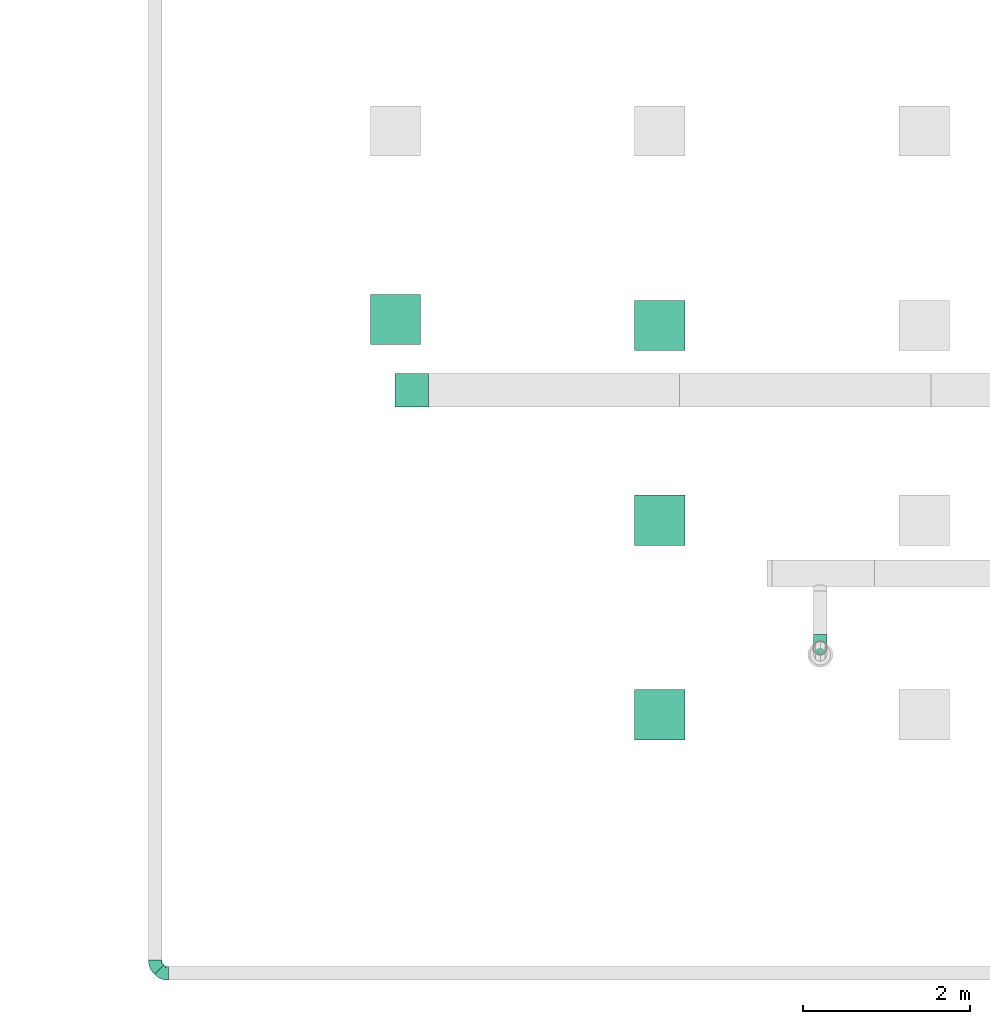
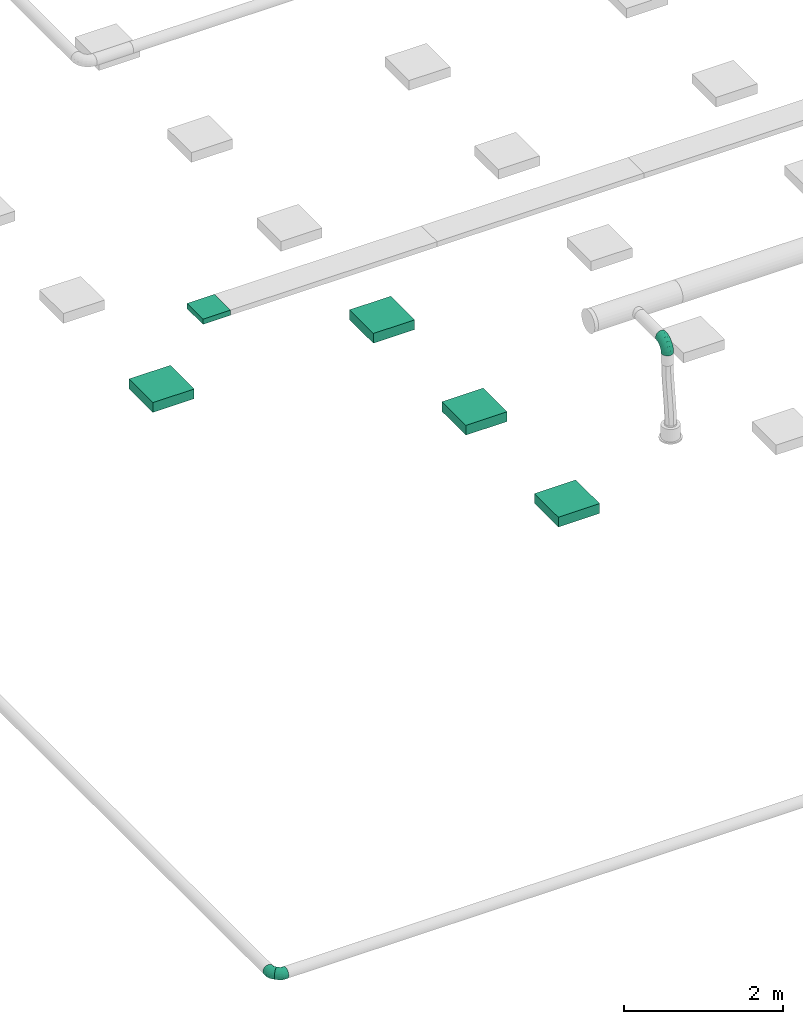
# One storey, part 15 of 374: 5 distribution elements, 3 flow fittings.
"""IFC2X3 building model written with IfcOpenShell, lengths in metres."""

from ifc_helpers import new_model, si_unit, direction, frame, frame_2d, origin, place, context, subcontext, project, spatial, rectangle, extrude, open_shell, surface_model, source, transform, mapped, element, save


model = new_model("IFC2X3")

# Units and contexts
model_context = context("Model", 3, precision=1e-05, world=origin(), true_north=direction((-0.4480736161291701, 0.8939966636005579)))
body_context = subcontext(model_context, "Body", "Model", "MODEL_VIEW")
ifc_project = project(units=[si_unit("LENGTHUNIT", "METRE"), si_unit("AREAUNIT", "SQUARE_METRE"), si_unit("VOLUMEUNIT", "CUBIC_METRE"), si_unit("PLANEANGLEUNIT", "RADIAN"), si_unit("THERMODYNAMICTEMPERATUREUNIT", "KELVIN"), si_unit("MASSUNIT", "GRAM", prefix="KILO"), si_unit("TIMEUNIT", "SECOND")], contexts=[model_context])

# Site, building, storey
site_placement = place(None, origin())
site = spatial("IfcSite", under=ifc_project, at=site_placement, Name="Site 1", CompositionType="ELEMENT")
building_placement = place(site_placement, origin())
building = spatial("IfcBuilding", under=site, at=building_placement, Name="Undefined", CompositionType="ELEMENT")
storey_placement = place(building_placement, origin())
storey = spatial("IfcBuildingStorey", under=building, at=storey_placement, Name="Rez de chauss\x8ee", CompositionType="ELEMENT", Elevation=0.0)

# Flow fittings
shared_shape_1 = source(origin(), body_context, "Body", "SurfaceModel", [
    surface_model("IfcFaceBasedSurfaceModel", [(0.06265257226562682, -8.8817842e-16, 0.0), (0.062296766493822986, 0.02088115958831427, -7.105427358e-15), (0.0003558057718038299, 0.020881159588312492, 7.105427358e-15), (0.0, 0.0, 0.0), (-0.059474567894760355, 0.022956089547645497, -0.015896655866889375), (-0.06051773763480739, 0.002098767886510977, -0.01607928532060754), (-0.11311701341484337, 0.02696454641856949, -0.04660663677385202), (-0.11477645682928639, 0.006153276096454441, -0.04714207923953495), (-0.15691588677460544, 0.0326333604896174, -0.09003710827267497), (-0.15907851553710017, 0.01188721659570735, -0.09107150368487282), (-0.18788636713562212, 0.03957621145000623, -0.14322835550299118), (-0.1904048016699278, 0.01890983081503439, -0.14487384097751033), (-0.2039178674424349, 0.04731995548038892, -0.20255548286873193), (-0.20662048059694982, 0.026742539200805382, -0.20488255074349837), (0.061253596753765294, 0.04103889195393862, -0.0053597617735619), (0.0013989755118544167, 0.04103889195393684, -0.005359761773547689), (-0.05641614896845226, 0.04304393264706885, -0.02072097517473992), (-0.10825177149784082, 0.04691737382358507, -0.050396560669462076), (-0.15057538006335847, 0.05239524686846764, -0.09236417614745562), (-0.18050269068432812, 0.05910424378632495, -0.14376379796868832), (-0.19599420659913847, 0.06658715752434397, -0.20109262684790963), (0.05959415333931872, 0.05909948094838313, -0.01571402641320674), (0.003058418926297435, 0.05909948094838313, -0.01571402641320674), (-0.05155090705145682, 0.06099334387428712, -0.030223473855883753), (-0.10051228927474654, 0.06465200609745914, -0.058253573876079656), (-0.1404890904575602, 0.0698261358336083, -0.09789412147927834), (-0.16875695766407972, 0.0761631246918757, -0.14644367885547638), (-0.18338948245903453, 0.08323111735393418, -0.2005936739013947), (0.057431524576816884, 0.07383212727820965, -0.030357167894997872), (0.005221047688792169, 0.07383212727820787, -0.03035716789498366), (-0.0452104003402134, 0.07558110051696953, -0.04375657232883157), (-0.09042599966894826, 0.07895985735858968, -0.06964223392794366), (-0.12734438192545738, 0.08373814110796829, -0.10625008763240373), (-0.15344962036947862, 0.08959031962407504, -0.15108536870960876), (-0.16696268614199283, 0.0961175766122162, -0.20109262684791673), (0.054913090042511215, 0.0842328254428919, -0.048291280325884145), (0.007739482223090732, 0.08423282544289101, -0.04829128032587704), (-0.037826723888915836, 0.08581307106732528, -0.06039801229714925), (-0.07868026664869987, 0.08886587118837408, -0.08378642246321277), (-0.11203704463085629, 0.09318318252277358, -0.11686262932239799), (-0.13562384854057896, 0.09847078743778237, -0.1573725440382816), (-0.14783327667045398, 0.10436834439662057, -0.20255548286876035), (0.05221047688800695, 0.0895927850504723, -0.06829418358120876), (0.010442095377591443, 0.08959278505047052, -0.06829418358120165), (-0.029903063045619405, 0.09099196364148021, -0.07901370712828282), (-0.06607554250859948, 0.09369496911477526, -0.0997222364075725), (-0.0956102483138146, 0.0975175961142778, -0.12900851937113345), (-0.11649443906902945, 0.10219933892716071, -0.16487674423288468), (-0.12730489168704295, 0.1074211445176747, -0.2048825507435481), (0.04950786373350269, 0.08954673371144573, -0.08900271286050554), (0.013144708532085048, 0.08954673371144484, -0.08900271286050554), (-0.02197940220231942, 0.09076484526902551, -0.09833502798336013), (-0.05347081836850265, 0.09311805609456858, -0.11636367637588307), (-0.0791834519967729, 0.09644599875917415, -0.14186003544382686), (-0.09736502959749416, 0.10052187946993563, -0.17308657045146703), (-0.10677650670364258, 0.1050679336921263, -0.20791524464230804), (0.04698942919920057, 0.08409780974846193, -0.10900561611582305), (0.015663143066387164, 0.08409780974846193, -0.10900561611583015), (-0.014595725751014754, 0.08514719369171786, -0.11704525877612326), (-0.0417250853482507, 0.0871744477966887, -0.13257665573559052), (-0.06387611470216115, 0.09004141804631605, -0.15454136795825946), (-0.07953925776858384, 0.09355272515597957, -0.1814425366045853), (-0.08764709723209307, 0.09746907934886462, -0.21144689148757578), (0.04482680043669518, 0.0736173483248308, -0.12693972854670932), (0.017825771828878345, 0.0736173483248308, -0.12693972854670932), (-0.008255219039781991, 0.07452184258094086, -0.13386932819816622), (-0.03163879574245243, 0.0762691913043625, -0.14725628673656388), (-0.050731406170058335, 0.07874031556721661, -0.1661883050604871), (-0.06423192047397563, 0.08176681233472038, -0.18937519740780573), (-0.07122030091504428, 0.08514243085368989, -0.21523681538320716), (0.04316735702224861, 0.058819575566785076, -0.14158287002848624), (0.019485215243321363, 0.058819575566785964, -0.14158287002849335), (-0.0033899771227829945, 0.05961289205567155, -0.14766070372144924), (-0.02389931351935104, 0.06114546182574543, -0.15940217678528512), (-0.04064511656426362, 0.06331284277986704, -0.17600712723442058), (-0.052486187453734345, 0.06596733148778, -0.19634395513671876), (-0.05861557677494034, 0.06892802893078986, -0.2190267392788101), (0.04212418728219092, 0.040712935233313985, -0.15193713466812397), (0.020528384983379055, 0.040712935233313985, -0.15193713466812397), (-0.0003315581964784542, 0.041436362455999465, -0.15747952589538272), (-0.019034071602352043, 0.04283391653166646, -0.16818660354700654), (-0.03430460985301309, 0.04481035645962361, -0.1833286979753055), (-0.04510251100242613, 0.047230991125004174, -0.20187390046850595), (-0.05069191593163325, 0.04993085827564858, -0.22255838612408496), (0.04176838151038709, 0.02053136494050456, -0.15729689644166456), (0.020884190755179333, 0.02053136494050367, -0.15729689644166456), (0.0007116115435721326, 0.021230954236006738, -0.16265665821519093), (-0.017374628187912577, 0.022582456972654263, -0.17301092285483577), (-0.03214198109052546, 0.024493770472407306, -0.1876540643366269), (-0.042584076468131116, 0.026834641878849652, -0.20558817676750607), (-0.04798930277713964, 0.02944554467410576, -0.22559108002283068), (0.04212418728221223, -0.000349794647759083, -0.15729689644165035), (0.020528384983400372, -0.000349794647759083, -0.15729689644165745), (-0.0003315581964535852, 0.00037363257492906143, -0.1628392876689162), (-0.019034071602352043, 0.0017711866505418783, -0.17354636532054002), (-0.03430460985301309, 0.0037476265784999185, -0.18868845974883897), (-0.04510251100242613, 0.00616826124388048, -0.20723366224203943), (-0.05069191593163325, 0.008868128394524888, -0.22791814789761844), (0.04316735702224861, -0.020507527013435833, -0.15193713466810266), (0.019485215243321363, -0.020507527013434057, -0.15193713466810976), (-0.0033899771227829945, -0.019714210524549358, -0.15801496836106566), (-0.02389931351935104, -0.01818164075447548, -0.16975644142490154), (-0.04064511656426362, -0.01601425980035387, -0.186361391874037), (-0.052486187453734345, -0.013359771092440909, -0.20669821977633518), (-0.05861557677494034, -0.010399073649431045, -0.22938100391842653), (0.04482680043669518, -0.03856811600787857, -0.1415828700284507), (0.017825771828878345, -0.03856811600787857, -0.1415828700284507), (-0.008255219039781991, -0.03766362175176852, -0.1485124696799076), (-0.03163879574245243, -0.03591627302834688, -0.16189942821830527), (-0.050731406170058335, -0.03344514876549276, -0.1808314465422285), (-0.06423192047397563, -0.030418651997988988, -0.20401833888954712), (-0.07122030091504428, -0.027043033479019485, -0.22987995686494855), (0.04698942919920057, -0.05330076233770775, -0.12693972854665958), (0.015663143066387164, -0.05330076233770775, -0.12693972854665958), (-0.014595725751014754, -0.05225137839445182, -0.1349793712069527), (-0.0417250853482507, -0.05022412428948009, -0.15051076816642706), (-0.06387611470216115, -0.047357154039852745, -0.172475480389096), (-0.07953925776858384, -0.043845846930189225, -0.19937664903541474), (-0.08764709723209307, -0.03992949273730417, -0.2293810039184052), (0.04950786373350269, -0.06370146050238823, -0.10900561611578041), (0.013144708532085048, -0.06370146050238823, -0.10900561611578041), (-0.02197940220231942, -0.06248334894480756, -0.11833793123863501), (-0.05347081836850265, -0.06013013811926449, -0.13636657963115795), (-0.0791834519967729, -0.05680219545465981, -0.16186293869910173), (-0.09736502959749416, -0.05272631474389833, -0.1930894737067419), (-0.10677650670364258, -0.04818026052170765, -0.2279181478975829), (0.05221047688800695, -0.06906142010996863, -0.08900271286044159), (0.010442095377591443, -0.06906142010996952, -0.08900271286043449), (-0.029903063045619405, -0.06766224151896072, -0.09972223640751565), (-0.06607554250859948, -0.06495923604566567, -0.12043076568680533), (-0.0956102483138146, -0.06113660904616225, -0.14971704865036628), (-0.11649443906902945, -0.05645486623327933, -0.1855852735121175), (-0.12730489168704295, -0.05123306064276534, -0.22559108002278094), (0.054913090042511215, -0.06901536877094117, -0.06829418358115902), (0.007739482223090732, -0.06901536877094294, -0.06829418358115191), (-0.037826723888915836, -0.06743512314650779, -0.08040091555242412), (-0.07868026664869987, -0.06438232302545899, -0.10378932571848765), (-0.11203704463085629, -0.06006501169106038, -0.13686553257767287), (-0.13562384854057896, -0.0547774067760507, -0.17737544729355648), (-0.14783327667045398, -0.04887984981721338, -0.22255838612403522), (0.057431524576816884, -0.06356644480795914, -0.0482912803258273), (0.005221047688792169, -0.06356644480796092, -0.04829128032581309), (-0.0452104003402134, -0.061817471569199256, -0.0616906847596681), (-0.09042599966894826, -0.05843871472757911, -0.0875763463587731), (-0.12734438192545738, -0.05366043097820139, -0.12418420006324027), (-0.15344962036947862, -0.04780825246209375, -0.1690194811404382), (-0.16696268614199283, -0.041280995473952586, -0.21902673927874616), (0.05959415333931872, -0.05308598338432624, -0.030357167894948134), (0.003058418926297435, -0.05308598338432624, -0.030357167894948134), (-0.05155090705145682, -0.05119212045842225, -0.04486661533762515), (-0.10051228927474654, -0.04753345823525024, -0.07289671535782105), (-0.1404890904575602, -0.04235932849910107, -0.11253726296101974), (-0.16875695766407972, -0.03602233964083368, -0.16108682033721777), (-0.18338948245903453, -0.02895434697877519, -0.2152368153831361), (0.061253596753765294, -0.03828821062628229, -0.015714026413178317), (0.0013989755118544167, -0.03828821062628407, -0.015714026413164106), (-0.05641614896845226, -0.03628316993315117, -0.031075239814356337), (-0.10825177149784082, -0.03240972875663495, -0.06075082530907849), (-0.15057538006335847, -0.026931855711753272, -0.10271844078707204), (-0.18050269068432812, -0.02022285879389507, -0.15411806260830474), (-0.19599420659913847, -0.012739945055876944, -0.21144689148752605), (0.062296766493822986, -0.020181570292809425, -0.005359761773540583), (0.0003558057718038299, -0.020181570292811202, -0.0053597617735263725), (-0.059474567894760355, -0.018106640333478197, -0.021256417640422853), (-0.11311701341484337, -0.014098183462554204, -0.051966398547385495), (-0.15691588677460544, -0.00842936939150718, -0.09539687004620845), (-0.18788636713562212, -0.0014865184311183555, -0.14858811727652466), (-0.2039178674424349, 0.006257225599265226, -0.2079152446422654)], [open_shell([[[0, 1, 2, 3]], [[3, 2, 4, 5]], [[5, 4, 6, 7]], [[7, 6, 8, 9]], [[9, 8, 10, 11]], [[11, 10, 12, 13]], [[1, 14, 15, 2]], [[2, 15, 16, 4]], [[4, 16, 17, 6]], [[6, 17, 18, 8]], [[8, 18, 19, 10]], [[10, 19, 20, 12]], [[14, 21, 22, 15]], [[15, 22, 23, 16]], [[16, 23, 24, 17]], [[17, 24, 25, 18]], [[18, 25, 26, 19]], [[19, 26, 27, 20]], [[21, 28, 29, 22]], [[22, 29, 30, 23]], [[23, 30, 31, 24]], [[24, 31, 32, 25]], [[25, 32, 33, 26]], [[26, 33, 34, 27]], [[28, 35, 36, 29]], [[29, 36, 37, 30]], [[30, 37, 38, 31]], [[31, 38, 39, 32]], [[32, 39, 40, 33]], [[33, 40, 41, 34]], [[35, 42, 43, 36]], [[36, 43, 44, 37]], [[37, 44, 45, 38]], [[38, 45, 46, 39]], [[39, 46, 47, 40]], [[40, 47, 48, 41]], [[42, 49, 50, 43]], [[43, 50, 51, 44]], [[44, 51, 52, 45]], [[45, 52, 53, 46]], [[46, 53, 54, 47]], [[47, 54, 55, 48]], [[49, 56, 57, 50]], [[50, 57, 58, 51]], [[51, 58, 59, 52]], [[52, 59, 60, 53]], [[53, 60, 61, 54]], [[54, 61, 62, 55]], [[56, 63, 64, 57]], [[57, 64, 65, 58]], [[58, 65, 66, 59]], [[59, 66, 67, 60]], [[60, 67, 68, 61]], [[61, 68, 69, 62]], [[63, 70, 71, 64]], [[64, 71, 72, 65]], [[65, 72, 73, 66]], [[66, 73, 74, 67]], [[67, 74, 75, 68]], [[68, 75, 76, 69]], [[70, 77, 78, 71]], [[71, 78, 79, 72]], [[72, 79, 80, 73]], [[73, 80, 81, 74]], [[74, 81, 82, 75]], [[75, 82, 83, 76]], [[77, 84, 85, 78]], [[78, 85, 86, 79]], [[79, 86, 87, 80]], [[80, 87, 88, 81]], [[81, 88, 89, 82]], [[82, 89, 90, 83]], [[84, 91, 92, 85]], [[85, 92, 93, 86]], [[86, 93, 94, 87]], [[87, 94, 95, 88]], [[88, 95, 96, 89]], [[89, 96, 97, 90]], [[91, 98, 99, 92]], [[92, 99, 100, 93]], [[93, 100, 101, 94]], [[94, 101, 102, 95]], [[95, 102, 103, 96]], [[96, 103, 104, 97]], [[98, 105, 106, 99]], [[99, 106, 107, 100]], [[100, 107, 108, 101]], [[101, 108, 109, 102]], [[102, 109, 110, 103]], [[103, 110, 111, 104]], [[105, 112, 113, 106]], [[106, 113, 114, 107]], [[107, 114, 115, 108]], [[108, 115, 116, 109]], [[109, 116, 117, 110]], [[110, 117, 118, 111]], [[112, 119, 120, 113]], [[113, 120, 121, 114]], [[114, 121, 122, 115]], [[115, 122, 123, 116]], [[116, 123, 124, 117]], [[117, 124, 125, 118]], [[119, 126, 127, 120]], [[120, 127, 128, 121]], [[121, 128, 129, 122]], [[122, 129, 130, 123]], [[123, 130, 131, 124]], [[124, 131, 132, 125]], [[126, 133, 134, 127]], [[127, 134, 135, 128]], [[128, 135, 136, 129]], [[129, 136, 137, 130]], [[130, 137, 138, 131]], [[131, 138, 139, 132]], [[133, 140, 141, 134]], [[134, 141, 142, 135]], [[135, 142, 143, 136]], [[136, 143, 144, 137]], [[137, 144, 145, 138]], [[138, 145, 146, 139]], [[140, 147, 148, 141]], [[141, 148, 149, 142]], [[142, 149, 150, 143]], [[143, 150, 151, 144]], [[144, 151, 152, 145]], [[145, 152, 153, 146]], [[147, 154, 155, 148]], [[148, 155, 156, 149]], [[149, 156, 157, 150]], [[150, 157, 158, 151]], [[151, 158, 159, 152]], [[152, 159, 160, 153]], [[154, 161, 162, 155]], [[155, 162, 163, 156]], [[156, 163, 164, 157]], [[157, 164, 165, 158]], [[158, 165, 166, 159]], [[159, 166, 167, 160]], [[161, 0, 3, 162]], [[162, 3, 5, 163]], [[163, 5, 7, 164]], [[164, 7, 9, 165]], [[165, 9, 11, 166]], [[166, 11, 13, 167]]])]),
])
flow_fitting_1_placement = place(storey_placement, origin())
element("IfcFlowFitting", 1, at=flow_fitting_1_placement, inside=storey, Name="Coude", ObjectType="Coude", context=body_context, shape_type="MappedRepresentation", body=[
    mapped(shared_shape_1, transform((6.290000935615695, 1.8881775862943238, 3.702116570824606), x_axis=(9.56658874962e-13, -0.13052619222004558, -0.9914448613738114), y_axis=(0.9915887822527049, 0.12832103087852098, -0.01689378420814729), z_axis=(0.12942830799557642, -0.983105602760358, 0.1294283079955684))),
])
shared_shape_2 = source(origin(), body_context, "Body", "SurfaceModel", [
    surface_model("IfcFaceBasedSurfaceModel", [(0.0, 0.020884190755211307, 0.0), (0.0, 0.0, 0.0), (0.03280000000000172, -3.552713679e-15, -4.4408921e-16), (0.03280000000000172, 0.0208841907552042, -8.8817842e-16), (0.0, -0.020172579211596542, -0.005405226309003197), (0.03280000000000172, -0.020172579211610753, -0.005405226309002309), (0.0, -0.03825881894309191, -0.015847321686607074), (0.03280000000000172, -0.038258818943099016, -0.015847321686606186), (0.0, -0.05302617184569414, -0.0306146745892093), (0.03280000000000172, -0.05302617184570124, -0.03061467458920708), (0.0, -0.06346826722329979, -0.04870091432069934), (0.03280000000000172, -0.06346826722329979, -0.04870091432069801), (0.0, -0.06887349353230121, -0.06887349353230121), (0.03280000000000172, -0.06887349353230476, -0.06887349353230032), (0.0, -0.06887349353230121, -0.08975768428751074), (0.03280000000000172, -0.06887349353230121, -0.08975768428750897), (0.0, -0.06346826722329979, -0.10993026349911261), (0.03280000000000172, -0.0634682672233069, -0.10993026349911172), (0.0, -0.05302617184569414, -0.12801650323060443), (0.03280000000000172, -0.05302617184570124, -0.12801650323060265), (0.0, -0.038258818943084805, -0.14278385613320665), (0.03280000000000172, -0.038258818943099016, -0.142783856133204), (0.0, -0.020172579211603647, -0.15322595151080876), (0.03280000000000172, -0.0201725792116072, -0.15322595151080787), (0.0, 7.105427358e-15, -0.15863117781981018), (0.03280000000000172, -7.105427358e-15, -0.15863117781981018), (0.0, 0.020884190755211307, -0.15863117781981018), (0.03280000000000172, 0.0208841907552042, -0.15863117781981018), (0.0, 0.04105676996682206, -0.15322595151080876), (0.03280000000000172, 0.04105676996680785, -0.15322595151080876), (0.0, 0.05914300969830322, -0.1427838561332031), (0.03280000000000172, 0.05914300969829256, -0.142783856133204), (0.0, 0.07391036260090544, -0.12801650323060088), (0.03280000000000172, 0.07391036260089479, -0.12801650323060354), (0.0, 0.0843524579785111, -0.10993026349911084), (0.03280000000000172, 0.08435245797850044, -0.1099302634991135), (0.0, 0.08975768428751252, -0.08975768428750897), (0.03280000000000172, 0.08975768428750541, -0.08975768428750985), (0.0, 0.08975768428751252, -0.06887349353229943), (0.03280000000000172, 0.08975768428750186, -0.0688734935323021), (0.0, 0.0843524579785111, -0.048700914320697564), (0.03280000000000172, 0.08435245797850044, -0.048700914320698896), (0.0, 0.07391036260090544, -0.030614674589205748), (0.03280000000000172, 0.07391036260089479, -0.03061467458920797), (0.0, 0.05914300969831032, -0.015847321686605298), (0.03280000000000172, 0.05914300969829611, -0.015847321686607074), (0.0, 0.04105676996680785, -0.005405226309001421), (0.03280000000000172, 0.04105676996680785, -0.005405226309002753), (0.07350552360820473, -0.06356035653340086, -0.09045717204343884), (0.07421104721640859, -0.06346826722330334, -0.0695851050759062), (0.11143703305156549, -0.04798302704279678, -0.09250796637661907), (0.11280000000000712, -0.04762094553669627, -0.07167144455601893), (0.14400955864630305, -0.023203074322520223, -0.09577030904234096), (0.14593708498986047, -0.02241149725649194, -0.07499033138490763), (0.07143703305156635, -0.058425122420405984, -0.11059420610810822), (0.1074410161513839, -0.043639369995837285, -0.1125407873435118), (0.13835833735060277, -0.020118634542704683, -0.11563735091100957), (0.06814653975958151, -0.04841252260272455, -0.12862390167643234), (0.10108427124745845, -0.034885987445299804, -0.13040470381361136), (0.12936854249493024, -0.013368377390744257, -0.13323755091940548), (0.06385828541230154, -0.03420489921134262, -0.14331756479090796), (0.09279999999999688, -0.02231940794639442, -0.14488231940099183), (0.11765281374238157, -0.0034123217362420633, -0.14737148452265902), (0.05886450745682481, -0.01677047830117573, -0.15367384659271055), (0.08315276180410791, -0.0067960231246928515, -0.15498700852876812), (0.1040095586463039, 0.009071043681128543, -0.15707594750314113), (0.0535055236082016, 0.002702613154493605, -0.15898698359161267), (0.07280000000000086, 0.010626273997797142, -0.16003015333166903), (0.08936854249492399, 0.023230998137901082, -0.16168959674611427), (0.04814653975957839, 0.02288731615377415, -0.15889489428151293), (0.06244723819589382, 0.028760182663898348, -0.15966807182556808), (0.07472752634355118, 0.03810256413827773, -0.16089801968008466), (0.043152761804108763, 0.042408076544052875, -0.1534038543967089), (0.05280000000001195, 0.04636990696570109, -0.15392543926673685), (0.061084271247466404, 0.05267226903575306, -0.15475516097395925), (0.038864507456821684, 0.05993458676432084, -0.1428880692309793), (0.04451572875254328, 0.062255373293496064, -0.143193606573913), (0.04936854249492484, 0.06594721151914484, -0.14367964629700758), (0.035574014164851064, 0.07427244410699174, -0.12806417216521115), (0.03815898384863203, 0.07533401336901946, -0.12820393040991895), (0.04037874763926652, 0.07702272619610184, -0.1284262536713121), (0.03350552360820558, 0.08444454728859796, -0.10994238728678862), (0.03416296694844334, 0.08471453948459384, -0.10997793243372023), (0.03472752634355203, 0.08514403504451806, -0.11003447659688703), (0.03350552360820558, 0.08984977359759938, -0.06888561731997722), (0.03416296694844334, 0.09011976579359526, -0.06892116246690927), (0.03472752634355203, 0.09054926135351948, -0.06897770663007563), (0.035574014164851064, 0.0847145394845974, -0.04874858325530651), (0.03815898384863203, 0.08577610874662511, -0.04888834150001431), (0.04037874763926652, 0.0874648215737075, -0.04911066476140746), (0.038864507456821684, 0.07470193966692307, -0.030718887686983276), (0.04451572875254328, 0.07702272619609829, -0.031024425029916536), (0.04936854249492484, 0.08071456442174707, -0.03151046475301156), (0.043152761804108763, 0.06049431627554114, -0.016025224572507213), (0.05280000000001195, 0.06445614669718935, -0.01654680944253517), (0.061084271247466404, 0.07075850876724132, -0.017376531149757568), (0.04814653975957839, 0.0430598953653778, -0.0056689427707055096), (0.06244723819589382, 0.048932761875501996, -0.006442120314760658), (0.07472752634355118, 0.058275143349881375, -0.007672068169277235), (0.0535055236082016, 0.023586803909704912, -0.0003558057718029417), (0.07280000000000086, 0.03151046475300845, -0.0013989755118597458), (0.08936854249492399, 0.04411518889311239, -0.0030584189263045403), (0.05886450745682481, 0.0034021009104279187, -0.0004478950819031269), (0.08315276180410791, 0.013376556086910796, -0.0017610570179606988), (0.1040095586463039, 0.02924362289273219, -0.00384999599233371), (0.06385828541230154, -0.016118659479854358, -0.0059389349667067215), (0.09279999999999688, -0.004233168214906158, -0.007503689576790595), (0.11765281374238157, 0.0146739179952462, -0.009992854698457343), (0.06814653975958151, -0.033645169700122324, -0.016454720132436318), (0.10108427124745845, -0.020118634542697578, -0.01823552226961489), (0.12936854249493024, 0.0013989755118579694, -0.021068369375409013), (0.07143703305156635, -0.04798302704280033, -0.03127861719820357), (0.1074410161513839, -0.03319727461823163, -0.03322519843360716), (0.13835833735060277, -0.00967653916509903, -0.03632176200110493), (0.07350552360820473, -0.05815513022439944, -0.04940040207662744), (0.11143703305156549, -0.04257780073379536, -0.051451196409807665), (0.14400955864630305, -0.017797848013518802, -0.05471353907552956), (0.16720266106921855, -0.00020839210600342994, -0.09879761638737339), (0.16913018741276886, 0.0005831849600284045, -0.07801763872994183), (0.16155143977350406, 0.0028760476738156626, -0.11866465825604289), (0.15256164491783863, 0.009626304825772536, -0.1362648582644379), (0.14084591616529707, 0.019582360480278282, -0.15039879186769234), (0.1272026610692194, 0.03206572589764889, -0.16010325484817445), (0.11256164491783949, 0.046225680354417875, -0.16471690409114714), (0.09792062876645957, 0.06109724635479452, -0.16392532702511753), (0.0842773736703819, 0.07566695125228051, -0.15778246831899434), (0.07256164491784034, 0.08894189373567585, -0.14670695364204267), (0.06357185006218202, 0.10001740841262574, -0.1314535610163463), (0.057920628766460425, 0.10813871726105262, -0.11306178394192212), (0.05599310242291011, 0.1127523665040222, -0.09278499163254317), (0.057920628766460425, 0.11354394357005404, -0.07200501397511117), (0.06357185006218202, 0.1104595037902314, -0.052137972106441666), (0.07256164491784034, 0.10370924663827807, -0.03453777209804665), (0.0842773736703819, 0.09375319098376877, -0.02040383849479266), (0.09792062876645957, 0.08126982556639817, -0.010699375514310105), (0.11256164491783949, 0.06710987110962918, -0.006085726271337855), (0.1272026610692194, 0.052238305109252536, -0.0068773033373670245), (0.14084591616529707, 0.037668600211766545, -0.013020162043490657), (0.15256164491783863, 0.024393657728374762, -0.024095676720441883), (0.16155143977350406, 0.013318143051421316, -0.039349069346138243), (0.16720266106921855, 0.005196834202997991, -0.05774084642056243)], [open_shell([[[0, 1, 2, 3]], [[1, 4, 5, 2]], [[4, 6, 7, 5]], [[6, 8, 9, 7]], [[8, 10, 11, 9]], [[10, 12, 13, 11]], [[12, 14, 15, 13]], [[14, 16, 17, 15]], [[16, 18, 19, 17]], [[18, 20, 21, 19]], [[20, 22, 23, 21]], [[22, 24, 25, 23]], [[24, 26, 27, 25]], [[26, 28, 29, 27]], [[28, 30, 31, 29]], [[30, 32, 33, 31]], [[32, 34, 35, 33]], [[34, 36, 37, 35]], [[36, 38, 39, 37]], [[38, 40, 41, 39]], [[40, 42, 43, 41]], [[42, 44, 45, 43]], [[44, 46, 47, 45]], [[46, 0, 3, 47]], [[13, 15, 48, 49]], [[49, 48, 50, 51]], [[51, 50, 52, 53]], [[15, 17, 54, 48]], [[48, 54, 55, 50]], [[50, 55, 56, 52]], [[17, 19, 57, 54]], [[54, 57, 58, 55]], [[55, 58, 59, 56]], [[19, 21, 60, 57]], [[57, 60, 61, 58]], [[58, 61, 62, 59]], [[21, 23, 63, 60]], [[60, 63, 64, 61]], [[61, 64, 65, 62]], [[23, 25, 66, 63]], [[63, 66, 67, 64]], [[64, 67, 68, 65]], [[25, 27, 69, 66]], [[66, 69, 70, 67]], [[67, 70, 71, 68]], [[27, 29, 72, 69]], [[69, 72, 73, 70]], [[70, 73, 74, 71]], [[29, 31, 75, 72]], [[72, 75, 76, 73]], [[73, 76, 77, 74]], [[31, 33, 78, 75]], [[75, 78, 79, 76]], [[76, 79, 80, 77]], [[33, 35, 81, 78]], [[78, 81, 82, 79]], [[79, 82, 83, 80]], [[35, 37, 81]], [[81, 37, 82]], [[82, 37, 83]], [[37, 39, 84]], [[37, 84, 85]], [[37, 85, 86]], [[39, 41, 87, 84]], [[84, 87, 88, 85]], [[85, 88, 89, 86]], [[41, 43, 90, 87]], [[87, 90, 91, 88]], [[88, 91, 92, 89]], [[43, 45, 93, 90]], [[90, 93, 94, 91]], [[91, 94, 95, 92]], [[45, 47, 96, 93]], [[93, 96, 97, 94]], [[94, 97, 98, 95]], [[47, 3, 99, 96]], [[96, 99, 100, 97]], [[97, 100, 101, 98]], [[3, 2, 102, 99]], [[99, 102, 103, 100]], [[100, 103, 104, 101]], [[2, 5, 105, 102]], [[102, 105, 106, 103]], [[103, 106, 107, 104]], [[5, 7, 108, 105]], [[105, 108, 109, 106]], [[106, 109, 110, 107]], [[7, 9, 111, 108]], [[108, 111, 112, 109]], [[109, 112, 113, 110]], [[9, 11, 114, 111]], [[111, 114, 115, 112]], [[112, 115, 116, 113]], [[11, 13, 49, 114]], [[114, 49, 51, 115]], [[115, 51, 53, 116]], [[53, 52, 117, 118]], [[52, 56, 119, 117]], [[56, 59, 120, 119]], [[59, 62, 121, 120]], [[62, 65, 122, 121]], [[65, 68, 123, 122]], [[68, 71, 124, 123]], [[71, 74, 125, 124]], [[74, 77, 126, 125]], [[77, 80, 127, 126]], [[80, 83, 128, 127]], [[83, 37, 129, 128]], [[37, 86, 130, 129]], [[86, 89, 131, 130]], [[89, 92, 132, 131]], [[92, 95, 133, 132]], [[95, 98, 134, 133]], [[98, 101, 135, 134]], [[101, 104, 136, 135]], [[104, 107, 137, 136]], [[107, 110, 138, 137]], [[110, 113, 139, 138]], [[113, 116, 140, 139]], [[116, 53, 118, 140]]])]),
])
flow_fitting_2_placement = place(storey_placement, origin())
element("IfcFlowFitting", 2, at=flow_fitting_2_placement, inside=storey, Name="PE-HD coude 45°", ObjectType="PE-HD coude 45°", context=body_context, shape_type="MappedRepresentation", body=[
    mapped(shared_shape_2, transform((-1.6736586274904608, -1.7664321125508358, -0.7163137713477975), x_axis=(0.0, -1.0, 0.0), y_axis=(0.9914448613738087, 0.0, 0.13052619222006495), z_axis=(-0.13052619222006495, 0.0, 0.9914448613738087))),
])
flow_fitting_3_placement = place(storey_placement, origin())
element("IfcFlowFitting", 3, at=flow_fitting_3_placement, inside=storey, Name="PE-HD coude 45°", ObjectType="PE-HD coude 45°", context=body_context, shape_type="MappedRepresentation", body=[
    mapped(shared_shape_2, transform((-1.620995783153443, -1.8935714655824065, -0.7163137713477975), x_axis=(0.7071067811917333, -0.7071067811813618, 0.0), y_axis=(0.7010573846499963, 0.701057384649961, 0.13052619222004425), z_axis=(-0.09229595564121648, -0.0922959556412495, 0.991444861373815))),
])

# Distribution elements
distribution_element_1_placement = place(storey_placement, origin())
element("IfcDistributionElement", 4, at=distribution_element_1_placement, inside=storey, Name="Chemin(s) de câbles", ObjectType="Chemin(s) de câbles", context=body_context, shape_type="SweptSolid", body=[
    extrude(rectangle(XDim=0.4, YDim=0.08, at=frame_2d((3.552713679e-15, 0.0), x_axis=(-1.0, 0.0))), frame((1.6109999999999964, 5.039, 4.14), z_axis=(-1.0, 0.0, 0.0), x_axis=(0.0, -1.0, 0.0)), (0.0, 0.0, 1.0), 0.3989760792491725),
])
distribution_element_2_placement = place(storey_placement, origin())
element("IfcDistributionElement", 5, at=distribution_element_2_placement, inside=storey, Name="Decken-Rechteckleuchte mit Rahmen AP", ObjectType="Decken-Rechteckleuchte mit Rahmen AP", context=body_context, shape_type="SweptSolid", body=[
    extrude(rectangle(XDim=0.6000000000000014, YDim=0.6000000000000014, at=frame_2d((3.552713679e-15, 0.0), x_axis=(0.0, 1.0))), frame((1.2155453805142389, 5.886, 2.5500000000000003), z_axis=(0.0, 0.0, -1.0), x_axis=(1.0, 0.0, 0.0)), (0.0, 0.0, 1.0), 0.15),
])
distribution_element_3_placement = place(storey_placement, origin())
element("IfcDistributionElement", 6, at=distribution_element_3_placement, inside=storey, Name="Decken-Rechteckleuchte mit Rahmen AP", ObjectType="Decken-Rechteckleuchte mit Rahmen AP", context=body_context, shape_type="SweptSolid", body=[
    extrude(rectangle(XDim=0.6000000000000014, YDim=0.6000000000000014, at=frame_2d((3.552713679e-15, 0.0), x_axis=(0.0, 1.0))), frame((4.373387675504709, 1.1625, 2.5500000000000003), z_axis=(0.0, 0.0, -1.0), x_axis=(1.0, 0.0, 0.0)), (0.0, 0.0, 1.0), 0.15),
])
distribution_element_4_placement = place(storey_placement, origin())
element("IfcDistributionElement", 7, at=distribution_element_4_placement, inside=storey, Name="Decken-Rechteckleuchte mit Rahmen AP", ObjectType="Decken-Rechteckleuchte mit Rahmen AP", context=body_context, shape_type="SweptSolid", body=[
    extrude(rectangle(XDim=0.6000000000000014, YDim=0.6000000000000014, at=frame_2d((3.552713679e-15, 0.0), x_axis=(0.0, 1.0))), frame((4.373387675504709, 3.4875, 2.5500000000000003), z_axis=(0.0, 0.0, -1.0), x_axis=(1.0, 0.0, 0.0)), (0.0, 0.0, 1.0), 0.15),
])
distribution_element_5_placement = place(storey_placement, origin())
element("IfcDistributionElement", 8, at=distribution_element_5_placement, inside=storey, Name="Decken-Rechteckleuchte mit Rahmen AP", ObjectType="Decken-Rechteckleuchte mit Rahmen AP", context=body_context, shape_type="SweptSolid", body=[
    extrude(rectangle(XDim=0.6000000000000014, YDim=0.6000000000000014, at=frame_2d((3.552713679e-15, 0.0), x_axis=(0.0, 1.0))), frame((4.373387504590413, 5.8125, 2.5500000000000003), z_axis=(0.0, 0.0, -1.0), x_axis=(1.0, 0.0, 0.0)), (0.0, 0.0, 1.0), 0.15),
])

save(model, "model.ifc")
